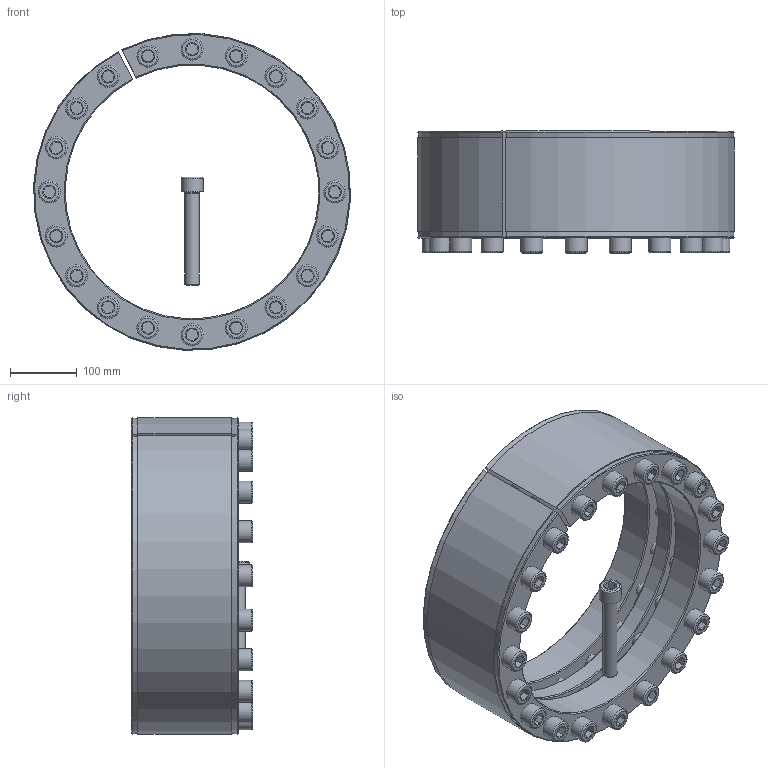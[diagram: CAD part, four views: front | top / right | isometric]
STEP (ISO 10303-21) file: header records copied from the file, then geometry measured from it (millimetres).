
FILE_DESCRIPTION( ( 'Unknown' ), '1' );
FILE_NAME( 'C:/Users/Frank/Eigene Daten/CAD/Solid Edge/KBK Karpstein/KBS Layout Baureihen/KBS 18/KBS 18 - 380 x 475.stp', 'Unknown', ( 'Unknown' ), ( 'Unknown' ), 'XStep 1.0', 'Unknown', ' ' );
FILE_SCHEMA( ( 'automotive_design' ) );
Length unit declared in the file: millimetre
Products named in the file (3): Assem1; ISO EN DIN 4762 M22x140; KBS 18 - 380 x 475
Bounding box: 474.39 x 182 x 474.23 mm (x, y, z)
Volume: 16608854 mm3; surface area: 2079465.8 mm2
Topology: 23 solids, 23 shells, 697 faces, 1459 edges, 892 vertices
Faces by surface type: plane 272, cylinder 212, cone 171, torus 42
Full cylindrical faces by diameter (mm): 18 x21, 19.294 x40, 22 x42, 24 x80, 33 x21
Entity records: 4350 total; most frequent: CARTESIAN_POINT 693, DIRECTION 624, ORIENTED_EDGE 454, EDGE_LOOP 302, AXIS2_PLACEMENT_3D 294, EDGE_CURVE 227, VERTEX_POINT 191, FACE_OUTER_BOUND 177
